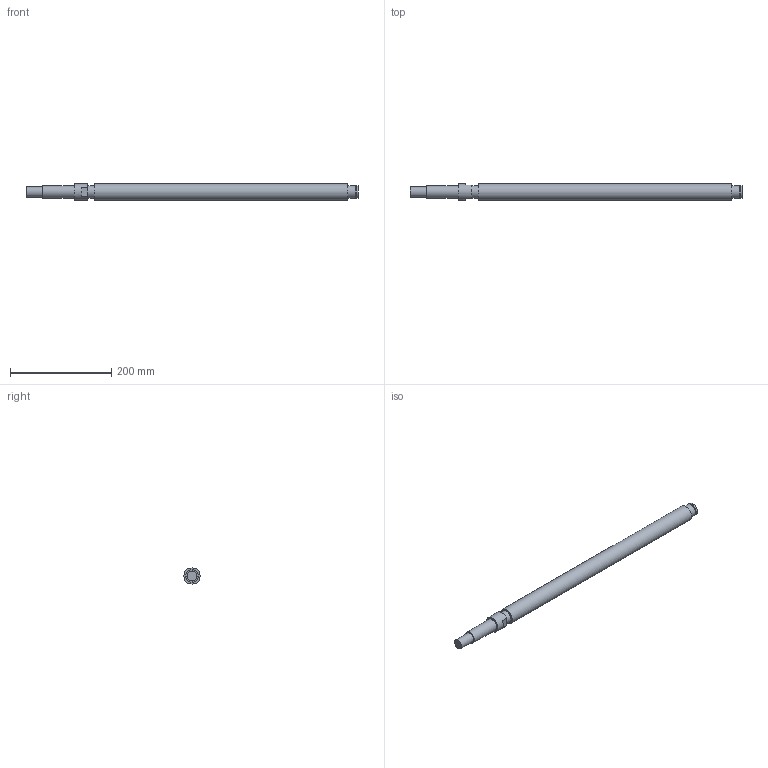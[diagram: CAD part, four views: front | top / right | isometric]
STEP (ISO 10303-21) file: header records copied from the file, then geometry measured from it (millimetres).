
FILE_DESCRIPTION((''),'2;1');
FILE_NAME('D:\製品 (図面)\カタログ用3D\ネジ関連\STEP形式\JK\JK32.stp','2010-06-11T10:56:18',('Tsuchiya'),(''),'Autodesk Inventor 10','Autodesk Inventor 10','');
FILE_SCHEMA(('AUTOMOTIVE_DESIGN { 1 0 10303 214 1 1 1 1 }'));
Length unit declared in the file: millimetre
Products named in the file (1): JK32
Bounding box: 655 x 32 x 32 mm (x, y, z)
Volume: 480083.3 mm3; surface area: 64806.7 mm2
Topology: 1 solids, 1 shells, 21 faces, 36 edges, 24 vertices
Faces by surface type: plane 13, cylinder 8
Full cylindrical faces by diameter (mm): 20 x1, 23.9 x1, 25 x4, 32 x2
Entity records: 483 total; most frequent: DIRECTION 90, CARTESIAN_POINT 72, ORIENTED_EDGE 54, AXIS2_PLACEMENT_3D 41, EDGE_LOOP 36, EDGE_CURVE 27, VERTEX_POINT 23, FACE_OUTER_BOUND 21
